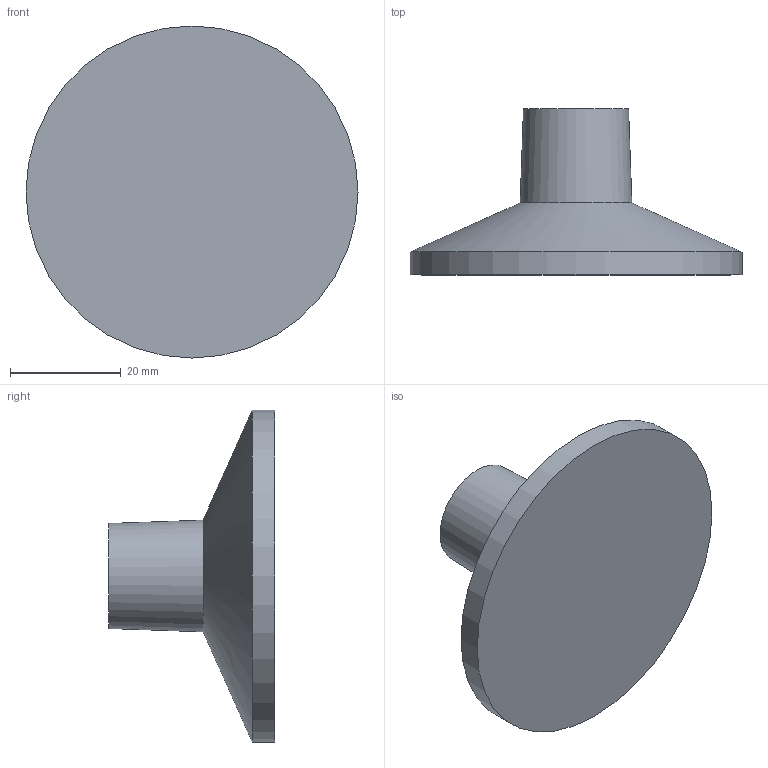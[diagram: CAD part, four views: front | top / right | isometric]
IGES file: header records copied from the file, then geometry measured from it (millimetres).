
Start section: Data from Parasolid IGES Translator 20.0.26, Copyright(c) 2006 Siemens P LM Software. All Rights Reserved.
Global section: file name: 9266141.igs; native system: By Siemens PLM Incorporated; preprocessor: XPlus GENERIC/IGES 20.0.26; author: Noname; organization: Noname; date: 20200630.115232; units: millimetre
Bounding box: 60 x 30 x 60 mm (x, y, z)
Surface area: 7834.9 mm2 (no closed solid volume)
Topology: 0 solids, 0 shells, 9 faces, 28 edges, 20 vertices
Faces by surface type: revolution 5, extrusion 4
